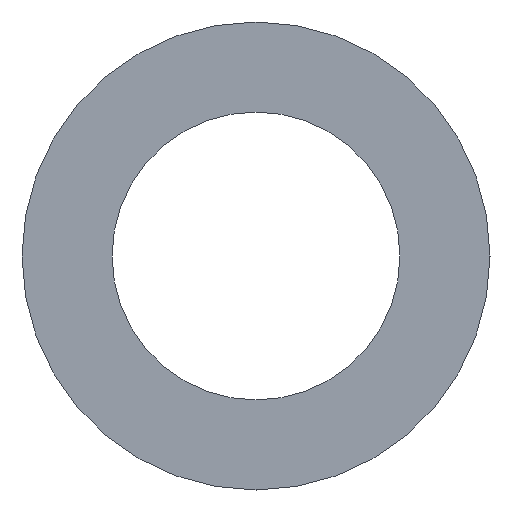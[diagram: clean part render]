
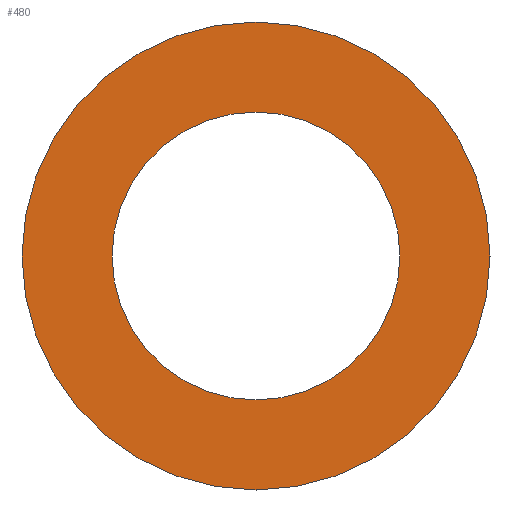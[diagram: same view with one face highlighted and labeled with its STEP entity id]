
A CAD part, front view. The second image highlights one B-rep face of the part: STEP entity #480.
In plain terms, the highlighted planar face has unit normal (0, -1, 0).
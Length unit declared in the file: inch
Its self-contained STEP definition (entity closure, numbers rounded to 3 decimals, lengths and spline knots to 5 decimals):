
#2 = CARTESIAN_POINT ( 'NONE',  ( 0., -0.15748, 0. ) ) ;
#15 = PLANE ( 'NONE',  #186 ) ;
#49 = EDGE_CURVE ( 'NONE', #553, #599, #416, .T. ) ;
#63 = EDGE_LOOP ( 'NONE', ( #569, #228 ) ) ;
#65 = CARTESIAN_POINT ( 'NONE',  ( -0.27854, -0.15748, 0. ) ) ;
#68 = FACE_OUTER_BOUND ( 'NONE', #63, .T. ) ;
#69 = VERTEX_POINT ( 'NONE', #462 ) ;
#108 = DIRECTION ( 'NONE',  ( 0., 1., 0. ) ) ;
#120 = CIRCLE ( 'NONE', #492, 0.45276 ) ;
#123 = DIRECTION ( 'NONE',  ( 0., 0., -1. ) ) ;
#149 = CIRCLE ( 'NONE', #622, 0.45276 ) ;
#153 = CARTESIAN_POINT ( 'NONE',  ( 0., -0.15748, -0.27854 ) ) ;
#160 = EDGE_CURVE ( 'NONE', #384, #69, #149, .T. ) ;
#176 = ORIENTED_EDGE ( 'NONE', *, *, #49, .F. ) ;
#186 = AXIS2_PLACEMENT_3D ( 'NONE', #65, #108, #243 ) ;
#194 = EDGE_CURVE ( 'NONE', #69, #384, #120, .T. ) ;
#198 = EDGE_LOOP ( 'NONE', ( #176, #504 ) ) ;
#228 = ORIENTED_EDGE ( 'NONE', *, *, #160, .T. ) ;
#243 = DIRECTION ( 'NONE',  ( 0., 0., 1. ) ) ;
#269 = DIRECTION ( 'NONE',  ( 0., -1., 0. ) ) ;
#278 = DIRECTION ( 'NONE',  ( 0., 0., -1. ) ) ;
#282 = DIRECTION ( 'NONE',  ( 0., 0., -1. ) ) ;
#318 = CARTESIAN_POINT ( 'NONE',  ( 0., -0.15748, 0. ) ) ;
#320 = CIRCLE ( 'NONE', #499, 0.27854 ) ;
#375 = CARTESIAN_POINT ( 'NONE',  ( 0., -0.15748, 0. ) ) ;
#377 = CARTESIAN_POINT ( 'NONE',  ( 0., -0.15748, 0. ) ) ;
#384 = VERTEX_POINT ( 'NONE', #490 ) ;
#394 = DIRECTION ( 'NONE',  ( 0., -1., 0. ) ) ;
#403 = EDGE_CURVE ( 'NONE', #599, #553, #320, .T. ) ;
#416 = CIRCLE ( 'NONE', #527, 0.27854 ) ;
#432 = DIRECTION ( 'NONE',  ( 0., -1., 0. ) ) ;
#443 = DIRECTION ( 'NONE',  ( 0., 0., -1. ) ) ;
#462 = CARTESIAN_POINT ( 'NONE',  ( 0., -0.15748, -0.45276 ) ) ;
#480 = ADVANCED_FACE ( 'NONE', ( #495, #68 ), #15, .F. ) ;
#490 = CARTESIAN_POINT ( 'NONE',  ( 0., -0.15748, 0.45276 ) ) ;
#492 = AXIS2_PLACEMENT_3D ( 'NONE', #375, #627, #278 ) ;
#495 = FACE_BOUND ( 'NONE', #198, .T. ) ;
#499 = AXIS2_PLACEMENT_3D ( 'NONE', #2, #394, #443 ) ;
#504 = ORIENTED_EDGE ( 'NONE', *, *, #403, .F. ) ;
#509 = CARTESIAN_POINT ( 'NONE',  ( 0., -0.15748, 0.27854 ) ) ;
#527 = AXIS2_PLACEMENT_3D ( 'NONE', #318, #269, #123 ) ;
#553 = VERTEX_POINT ( 'NONE', #153 ) ;
#569 = ORIENTED_EDGE ( 'NONE', *, *, #194, .T. ) ;
#599 = VERTEX_POINT ( 'NONE', #509 ) ;
#622 = AXIS2_PLACEMENT_3D ( 'NONE', #377, #432, #282 ) ;
#627 = DIRECTION ( 'NONE',  ( 0., -1., 0. ) ) ;
